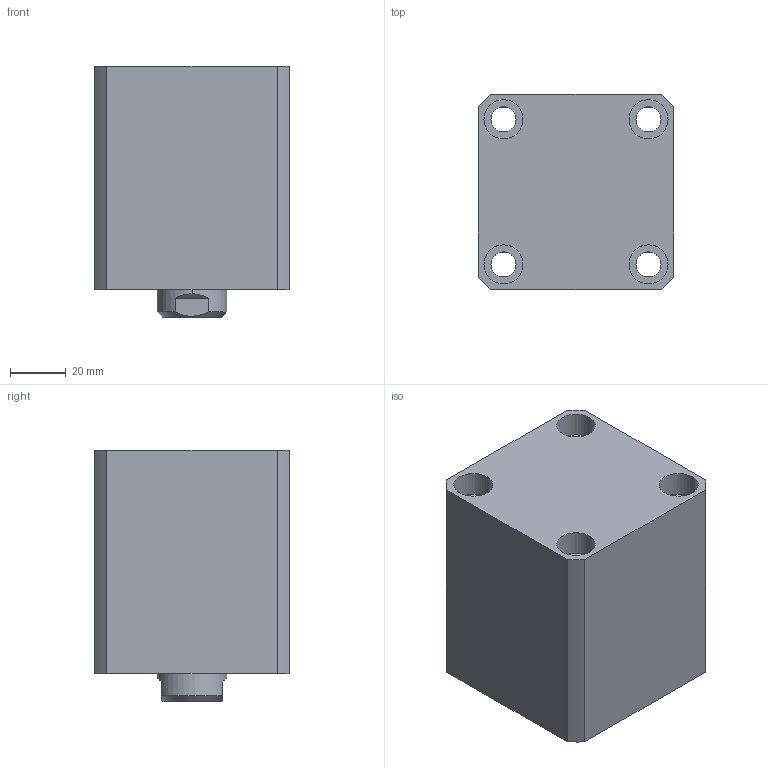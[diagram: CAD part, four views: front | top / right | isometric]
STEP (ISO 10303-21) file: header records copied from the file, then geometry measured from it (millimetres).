
FILE_DESCRIPTION (( 'STEP AP214' ), '1' );
FILE_NAME ('chtb-sd40x25n_asm.STEP', '2018-06-07T08:31:18', ( 'Windows' ), ( 'Microsoft' ), 'SwSTEP 2.0', 'SolidWorks 2015', '' );
FILE_SCHEMA (( 'AUTOMOTIVE_DESIGN' ));
Length unit declared in the file: millimetre
Products named in the file (4): CHTB-SD40X25NHSG; CHTB-SD40X25NBT; CHTB-SD40QG; chtb-sd40x25n_asm
Assembly tree (3 placements, depth 2):
  chtb-sd40x25n_asm
    CHTB-SD40QG
    CHTB-SD40X25NBT
    CHTB-SD40X25NHSG
Bounding box: 70 x 70 x 90 mm (x, y, z)
Volume: 335850.3 mm3; surface area: 73611.8 mm2
Topology: 3 solids, 3 shells, 157 faces, 401 edges, 266 vertices
Faces by surface type: cylinder 80, plane 36, bspline 14, torus 14, cone 13
Entity records: 9977 total; most frequent: CARTESIAN_POINT 6053, ORIENTED_EDGE 790, DIRECTION 768, EDGE_CURVE 395, AXIS2_PLACEMENT_3D 328, VERTEX_POINT 266, EDGE_LOOP 193, CIRCLE 179
